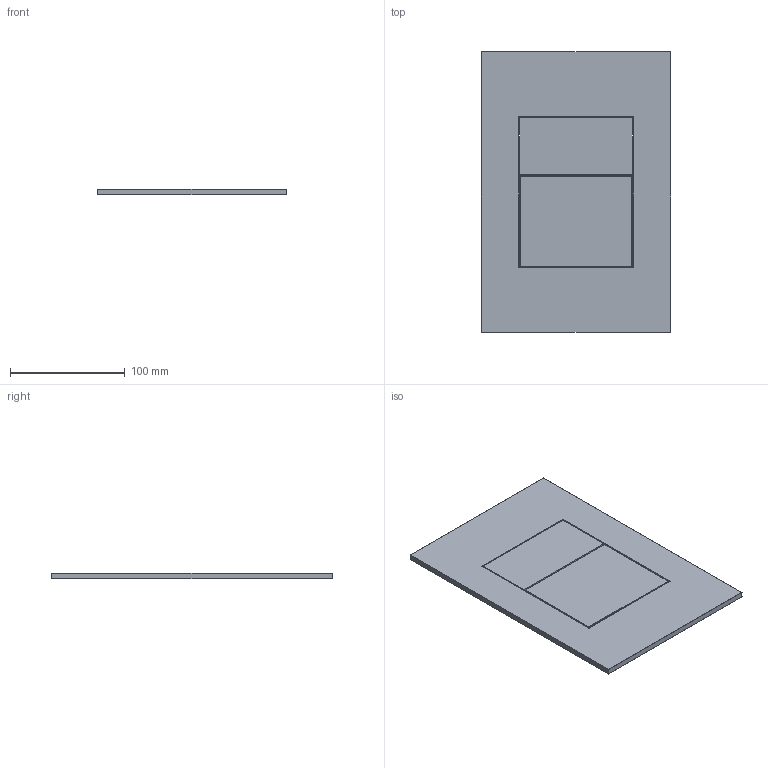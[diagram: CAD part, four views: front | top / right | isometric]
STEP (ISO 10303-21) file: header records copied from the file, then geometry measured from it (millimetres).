
FILE_DESCRIPTION(/* description */ ('Unknown'),/* implementation_level */ '2;1');
FILE_NAME(/* name */ 'RE046',/* time_stamp */ '2023-06-26T08:01:25+02:00',/* author */ ('Unknown'),/* organization */ ('Unknown'),/* preprocessor_version */ 'ST-DEVELOPER v18.102',/* originating_system */ 'Solid Edge',/* authorisation */ 'Unknown');
FILE_SCHEMA (('AUTOMOTIVE_DESIGN {1 0 10303 214 3 1 1}'));
Length unit declared in the file: millimetre
Products named in the file (7): RE046; C033031_03800LI_ASM_oa_0; C033031_PIASTRA; C033032_03800LI_ASM_oa_1; C033032_PIASTRA; C073062_03800LI_ASM_oa_2; C127094_03800EP
Assembly tree (6 placements, depth 3):
  RE046
    C033031_03800LI_ASM_oa_0
      C033031_PIASTRA
    C033032_03800LI_ASM_oa_1
      C033032_PIASTRA
    C073062_03800LI_ASM_oa_2
      C127094_03800EP
Bounding box: 165 x 245 x 5 mm (x, y, z)
Volume: 55748.7 mm3; surface area: 88601.1 mm2
Topology: 3 solids, 3 shells, 83 faces, 188 edges, 96 vertices
Faces by surface type: cylinder 36, plane 27, sphere 16, torus 4
Entity records: 2316 total; most frequent: DIRECTION 428, CARTESIAN_POINT 358, ORIENTED_EDGE 344, EDGE_CURVE 172, AXIS2_PLACEMENT_3D 166, VERTEX_POINT 96, LINE 96, VECTOR 96
